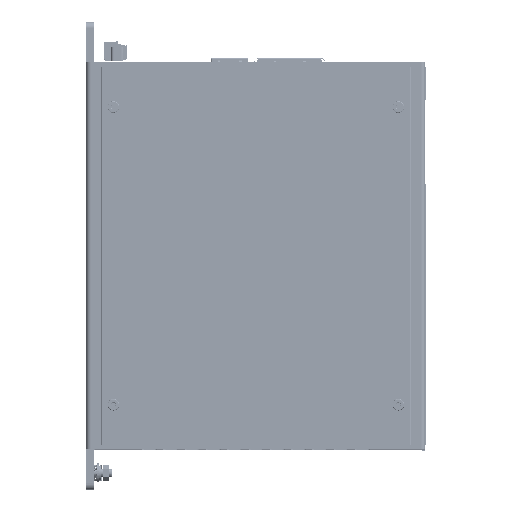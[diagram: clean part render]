
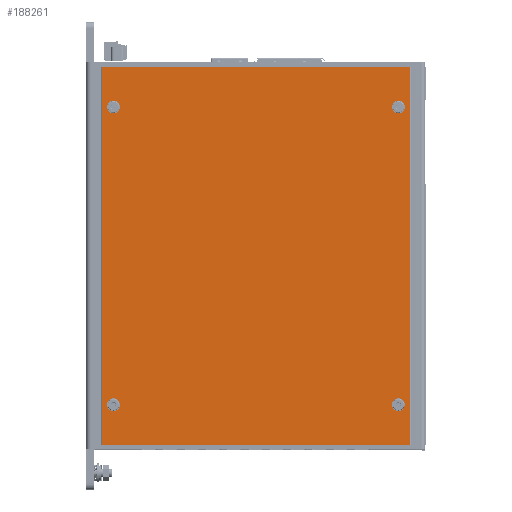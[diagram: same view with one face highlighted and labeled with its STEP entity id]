
A CAD part, top view. The second image highlights one B-rep face of the part: STEP entity #188261.
In plain terms, the highlighted planar face has unit normal (0, 0, 1).
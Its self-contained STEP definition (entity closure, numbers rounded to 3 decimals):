
#188071=DIRECTION('',(0.,-1.,0.));
#188072=VECTOR('',#188071,177.6);
#188073=CARTESIAN_POINT('',(66.3,88.3,46.2));
#188074=LINE('',#188073,#188072);
#188075=DIRECTION('',(-1.,0.,0.));
#188076=VECTOR('',#188075,145.1);
#188077=CARTESIAN_POINT('',(66.3,-89.3,46.2));
#188078=LINE('',#188077,#188076);
#188079=DIRECTION('',(0.,1.,0.));
#188080=VECTOR('',#188079,177.6);
#188081=CARTESIAN_POINT('',(-78.8,-89.3,46.2));
#188082=LINE('',#188081,#188080);
#188083=DIRECTION('',(1.,0.,0.));
#188084=VECTOR('',#188083,145.1);
#188085=CARTESIAN_POINT('',(-78.8,88.3,46.2));
#188086=LINE('',#188085,#188084);
#188087=CARTESIAN_POINT('',(-73.25,69.5,46.2));
#188088=DIRECTION('',(0.,0.,1.));
#188089=DIRECTION('',(0.,1.,0.));
#188090=AXIS2_PLACEMENT_3D('',#188087,#188088,#188089);
#188092=CARTESIAN_POINT('',(-73.25,69.5,46.2));
#188093=DIRECTION('',(0.,0.,1.));
#188094=DIRECTION('',(0.,-1.,0.));
#188095=AXIS2_PLACEMENT_3D('',#188092,#188093,#188094);
#188097=CARTESIAN_POINT('',(-73.25,-70.5,46.2));
#188098=DIRECTION('',(0.,0.,1.));
#188099=DIRECTION('',(0.,1.,0.));
#188100=AXIS2_PLACEMENT_3D('',#188097,#188098,#188099);
#188102=CARTESIAN_POINT('',(-73.25,-70.5,46.2));
#188103=DIRECTION('',(0.,0.,1.));
#188104=DIRECTION('',(0.,-1.,0.));
#188105=AXIS2_PLACEMENT_3D('',#188102,#188103,#188104);
#188107=CARTESIAN_POINT('',(60.75,69.5,46.2));
#188108=DIRECTION('',(0.,0.,1.));
#188109=DIRECTION('',(0.,1.,0.));
#188110=AXIS2_PLACEMENT_3D('',#188107,#188108,#188109);
#188112=CARTESIAN_POINT('',(60.75,69.5,46.2));
#188113=DIRECTION('',(0.,0.,1.));
#188114=DIRECTION('',(0.,-1.,0.));
#188115=AXIS2_PLACEMENT_3D('',#188112,#188113,#188114);
#188117=CARTESIAN_POINT('',(60.75,-70.5,46.2));
#188118=DIRECTION('',(0.,0.,1.));
#188119=DIRECTION('',(0.,1.,0.));
#188120=AXIS2_PLACEMENT_3D('',#188117,#188118,#188119);
#188122=CARTESIAN_POINT('',(60.75,-70.5,46.2));
#188123=DIRECTION('',(0.,0.,1.));
#188124=DIRECTION('',(0.,-1.,0.));
#188125=AXIS2_PLACEMENT_3D('',#188122,#188123,#188124);
#188127=CARTESIAN_POINT('',(66.3,-89.3,46.2));
#188128=CARTESIAN_POINT('',(66.3,88.3,46.2));
#188129=VERTEX_POINT('',#188127);
#188130=VERTEX_POINT('',#188128);
#188131=CARTESIAN_POINT('',(-78.8,-89.3,46.2));
#188132=CARTESIAN_POINT('',(-78.8,88.3,46.2));
#188133=VERTEX_POINT('',#188131);
#188134=VERTEX_POINT('',#188132);
#188135=CARTESIAN_POINT('',(-73.25,66.5,46.2));
#188136=CARTESIAN_POINT('',(-73.25,72.5,46.2));
#188137=VERTEX_POINT('',#188135);
#188138=VERTEX_POINT('',#188136);
#188139=CARTESIAN_POINT('',(-73.25,-73.5,46.2));
#188140=CARTESIAN_POINT('',(-73.25,-67.5,46.2));
#188141=VERTEX_POINT('',#188139);
#188142=VERTEX_POINT('',#188140);
#188143=CARTESIAN_POINT('',(60.75,66.5,46.2));
#188144=CARTESIAN_POINT('',(60.75,72.5,46.2));
#188145=VERTEX_POINT('',#188143);
#188146=VERTEX_POINT('',#188144);
#188147=CARTESIAN_POINT('',(60.75,-73.5,46.2));
#188148=CARTESIAN_POINT('',(60.75,-67.5,46.2));
#188149=VERTEX_POINT('',#188147);
#188150=VERTEX_POINT('',#188148);
#188222=CARTESIAN_POINT('',(66.3,-89.3,46.2));
#188223=DIRECTION('',(0.,0.,1.));
#188224=DIRECTION('',(0.,1.,0.));
#188225=AXIS2_PLACEMENT_3D('',#188222,#188223,#188224);
#188226=PLANE('',#188225);
#188228=ORIENTED_EDGE('',*,*,#188227,.T.);
#188230=ORIENTED_EDGE('',*,*,#188229,.T.);
#188232=ORIENTED_EDGE('',*,*,#188231,.T.);
#188234=ORIENTED_EDGE('',*,*,#188233,.T.);
#188235=EDGE_LOOP('',(#188228,#188230,#188232,#188234));
#188236=FACE_OUTER_BOUND('',#188235,.F.);
#188238=ORIENTED_EDGE('',*,*,#188237,.T.);
#188240=ORIENTED_EDGE('',*,*,#188239,.T.);
#188241=EDGE_LOOP('',(#188238,#188240));
#188242=FACE_BOUND('',#188241,.F.);
#188244=ORIENTED_EDGE('',*,*,#188243,.T.);
#188246=ORIENTED_EDGE('',*,*,#188245,.T.);
#188247=EDGE_LOOP('',(#188244,#188246));
#188248=FACE_BOUND('',#188247,.F.);
#188250=ORIENTED_EDGE('',*,*,#188249,.T.);
#188252=ORIENTED_EDGE('',*,*,#188251,.T.);
#188253=EDGE_LOOP('',(#188250,#188252));
#188254=FACE_BOUND('',#188253,.F.);
#188256=ORIENTED_EDGE('',*,*,#188255,.T.);
#188258=ORIENTED_EDGE('',*,*,#188257,.T.);
#188259=EDGE_LOOP('',(#188256,#188258));
#188260=FACE_BOUND('',#188259,.F.);
#188091=CIRCLE('',#188090,3.);
#188096=CIRCLE('',#188095,3.);
#188101=CIRCLE('',#188100,3.);
#188106=CIRCLE('',#188105,3.);
#188111=CIRCLE('',#188110,3.);
#188116=CIRCLE('',#188115,3.);
#188121=CIRCLE('',#188120,3.);
#188126=CIRCLE('',#188125,3.);
#188227=EDGE_CURVE('',#188130,#188129,#188074,.T.);
#188229=EDGE_CURVE('',#188129,#188133,#188078,.T.);
#188231=EDGE_CURVE('',#188133,#188134,#188082,.T.);
#188233=EDGE_CURVE('',#188134,#188130,#188086,.T.);
#188237=EDGE_CURVE('',#188138,#188137,#188091,.T.);
#188239=EDGE_CURVE('',#188137,#188138,#188096,.T.);
#188243=EDGE_CURVE('',#188142,#188141,#188101,.T.);
#188245=EDGE_CURVE('',#188141,#188142,#188106,.T.);
#188249=EDGE_CURVE('',#188146,#188145,#188111,.T.);
#188251=EDGE_CURVE('',#188145,#188146,#188116,.T.);
#188255=EDGE_CURVE('',#188150,#188149,#188121,.T.);
#188257=EDGE_CURVE('',#188149,#188150,#188126,.T.);
#188261=ADVANCED_FACE('',(#188236,#188242,#188248,#188254,#188260),#188226,.T.);
